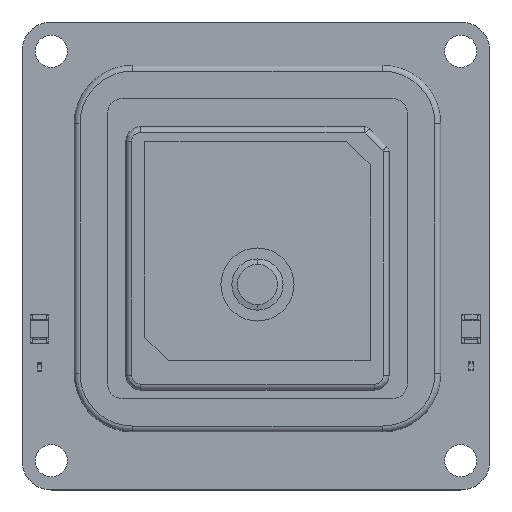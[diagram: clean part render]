
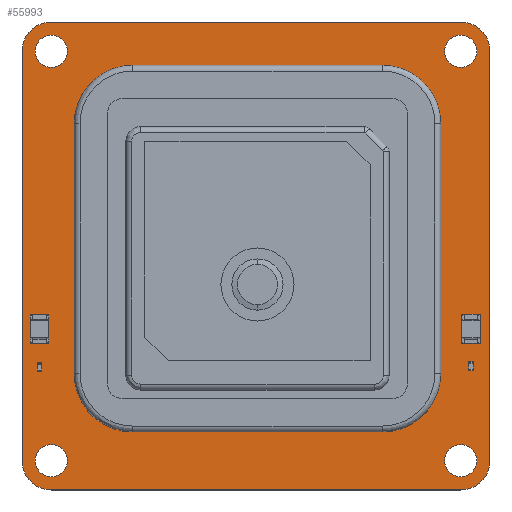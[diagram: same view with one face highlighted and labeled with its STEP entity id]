
A CAD part, top view. The second image highlights one B-rep face of the part: STEP entity #55993.
In plain terms, the highlighted planar face has unit normal (0, 0, 1).
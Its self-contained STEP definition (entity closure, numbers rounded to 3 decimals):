
#55789 = VERTEX_POINT('',#55790);
#55790 = CARTESIAN_POINT('',(32.,34.,1.6));
#55796 = EDGE_CURVE('',#55789,#55797,#55799,.T.);
#55797 = VERTEX_POINT('',#55798);
#55798 = CARTESIAN_POINT('',(34.,32.,1.6));
#55799 = CIRCLE('',#55800,2.);
#55800 = AXIS2_PLACEMENT_3D('',#55801,#55802,#55803);
#55801 = CARTESIAN_POINT('',(32.,32.,1.6));
#55802 = DIRECTION('',(0.,0.,-1.));
#55803 = DIRECTION('',(0.,1.,0.));
#55831 = VERTEX_POINT('',#55832);
#55832 = CARTESIAN_POINT('',(4.,34.,1.6));
#55838 = EDGE_CURVE('',#55831,#55789,#55839,.T.);
#55839 = LINE('',#55840,#55841);
#55840 = CARTESIAN_POINT('',(4.,34.,1.6));
#55841 = VECTOR('',#55842,1.);
#55842 = DIRECTION('',(1.,0.,0.));
#55860 = EDGE_CURVE('',#55797,#55861,#55863,.T.);
#55861 = VERTEX_POINT('',#55862);
#55862 = CARTESIAN_POINT('',(34.,4.,1.6));
#55863 = LINE('',#55864,#55865);
#55864 = CARTESIAN_POINT('',(34.,32.,1.6));
#55865 = VECTOR('',#55866,1.);
#55866 = DIRECTION('',(0.,-1.,0.));
#55993 = ADVANCED_FACE('',(#55994,#56040,#56051,#56062,#56073,#56084),
  #56095,.T.);
#55994 = FACE_BOUND('',#55995,.T.);
#55995 = EDGE_LOOP('',(#55996,#55997,#55998,#56007,#56015,#56024,#56032,
    #56039));
#55996 = ORIENTED_EDGE('',*,*,#55796,.F.);
#55997 = ORIENTED_EDGE('',*,*,#55838,.F.);
#55998 = ORIENTED_EDGE('',*,*,#55999,.F.);
#55999 = EDGE_CURVE('',#56000,#55831,#56002,.T.);
#56000 = VERTEX_POINT('',#56001);
#56001 = CARTESIAN_POINT('',(2.,32.,1.6));
#56002 = CIRCLE('',#56003,2.);
#56003 = AXIS2_PLACEMENT_3D('',#56004,#56005,#56006);
#56004 = CARTESIAN_POINT('',(4.,32.,1.6));
#56005 = DIRECTION('',(0.,0.,-1.));
#56006 = DIRECTION('',(-1.,0.,-0.));
#56007 = ORIENTED_EDGE('',*,*,#56008,.F.);
#56008 = EDGE_CURVE('',#56009,#56000,#56011,.T.);
#56009 = VERTEX_POINT('',#56010);
#56010 = CARTESIAN_POINT('',(2.,4.,1.6));
#56011 = LINE('',#56012,#56013);
#56012 = CARTESIAN_POINT('',(2.,4.,1.6));
#56013 = VECTOR('',#56014,1.);
#56014 = DIRECTION('',(0.,1.,0.));
#56015 = ORIENTED_EDGE('',*,*,#56016,.F.);
#56016 = EDGE_CURVE('',#56017,#56009,#56019,.T.);
#56017 = VERTEX_POINT('',#56018);
#56018 = CARTESIAN_POINT('',(4.,2.,1.6));
#56019 = CIRCLE('',#56020,2.);
#56020 = AXIS2_PLACEMENT_3D('',#56021,#56022,#56023);
#56021 = CARTESIAN_POINT('',(4.,4.,1.6));
#56022 = DIRECTION('',(0.,0.,-1.));
#56023 = DIRECTION('',(0.,-1.,0.));
#56024 = ORIENTED_EDGE('',*,*,#56025,.F.);
#56025 = EDGE_CURVE('',#56026,#56017,#56028,.T.);
#56026 = VERTEX_POINT('',#56027);
#56027 = CARTESIAN_POINT('',(32.,2.,1.6));
#56028 = LINE('',#56029,#56030);
#56029 = CARTESIAN_POINT('',(32.,2.,1.6));
#56030 = VECTOR('',#56031,1.);
#56031 = DIRECTION('',(-1.,0.,0.));
#56032 = ORIENTED_EDGE('',*,*,#56033,.F.);
#56033 = EDGE_CURVE('',#55861,#56026,#56034,.T.);
#56034 = CIRCLE('',#56035,2.);
#56035 = AXIS2_PLACEMENT_3D('',#56036,#56037,#56038);
#56036 = CARTESIAN_POINT('',(32.,4.,1.6));
#56037 = DIRECTION('',(0.,0.,-1.));
#56038 = DIRECTION('',(1.,0.,0.));
#56039 = ORIENTED_EDGE('',*,*,#55860,.F.);
#56040 = FACE_BOUND('',#56041,.T.);
#56041 = EDGE_LOOP('',(#56042));
#56042 = ORIENTED_EDGE('',*,*,#56043,.T.);
#56043 = EDGE_CURVE('',#56044,#56044,#56046,.T.);
#56044 = VERTEX_POINT('',#56045);
#56045 = CARTESIAN_POINT('',(4.,2.9,1.6));
#56046 = CIRCLE('',#56047,1.1);
#56047 = AXIS2_PLACEMENT_3D('',#56048,#56049,#56050);
#56048 = CARTESIAN_POINT('',(4.,4.,1.6));
#56049 = DIRECTION('',(-0.,0.,-1.));
#56050 = DIRECTION('',(-0.,-1.,0.));
#56051 = FACE_BOUND('',#56052,.T.);
#56052 = EDGE_LOOP('',(#56053));
#56053 = ORIENTED_EDGE('',*,*,#56054,.T.);
#56054 = EDGE_CURVE('',#56055,#56055,#56057,.T.);
#56055 = VERTEX_POINT('',#56056);
#56056 = CARTESIAN_POINT('',(32.,2.9,1.6));
#56057 = CIRCLE('',#56058,1.1);
#56058 = AXIS2_PLACEMENT_3D('',#56059,#56060,#56061);
#56059 = CARTESIAN_POINT('',(32.,4.,1.6));
#56060 = DIRECTION('',(-0.,0.,-1.));
#56061 = DIRECTION('',(-0.,-1.,0.));
#56062 = FACE_BOUND('',#56063,.T.);
#56063 = EDGE_LOOP('',(#56064));
#56064 = ORIENTED_EDGE('',*,*,#56065,.T.);
#56065 = EDGE_CURVE('',#56066,#56066,#56068,.T.);
#56066 = VERTEX_POINT('',#56067);
#56067 = CARTESIAN_POINT('',(18.1,15.485,1.6));
#56068 = CIRCLE('',#56069,0.515);
#56069 = AXIS2_PLACEMENT_3D('',#56070,#56071,#56072);
#56070 = CARTESIAN_POINT('',(18.1,16.,1.6));
#56071 = DIRECTION('',(-0.,0.,-1.));
#56072 = DIRECTION('',(-0.,-1.,0.));
#56073 = FACE_BOUND('',#56074,.T.);
#56074 = EDGE_LOOP('',(#56075));
#56075 = ORIENTED_EDGE('',*,*,#56076,.T.);
#56076 = EDGE_CURVE('',#56077,#56077,#56079,.T.);
#56077 = VERTEX_POINT('',#56078);
#56078 = CARTESIAN_POINT('',(4.,30.9,1.6));
#56079 = CIRCLE('',#56080,1.1);
#56080 = AXIS2_PLACEMENT_3D('',#56081,#56082,#56083);
#56081 = CARTESIAN_POINT('',(4.,32.,1.6));
#56082 = DIRECTION('',(-0.,0.,-1.));
#56083 = DIRECTION('',(-0.,-1.,0.));
#56084 = FACE_BOUND('',#56085,.T.);
#56085 = EDGE_LOOP('',(#56086));
#56086 = ORIENTED_EDGE('',*,*,#56087,.T.);
#56087 = EDGE_CURVE('',#56088,#56088,#56090,.T.);
#56088 = VERTEX_POINT('',#56089);
#56089 = CARTESIAN_POINT('',(32.,30.9,1.6));
#56090 = CIRCLE('',#56091,1.1);
#56091 = AXIS2_PLACEMENT_3D('',#56092,#56093,#56094);
#56092 = CARTESIAN_POINT('',(32.,32.,1.6));
#56093 = DIRECTION('',(-0.,0.,-1.));
#56094 = DIRECTION('',(-0.,-1.,0.));
#56095 = PLANE('',#56096);
#56096 = AXIS2_PLACEMENT_3D('',#56097,#56098,#56099);
#56097 = CARTESIAN_POINT('',(0.,0.,1.6));
#56098 = DIRECTION('',(0.,0.,1.));
#56099 = DIRECTION('',(1.,0.,-0.));
